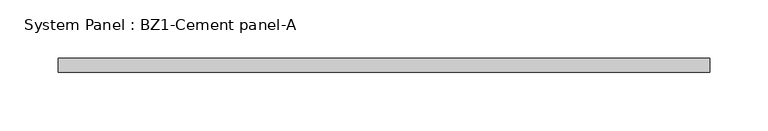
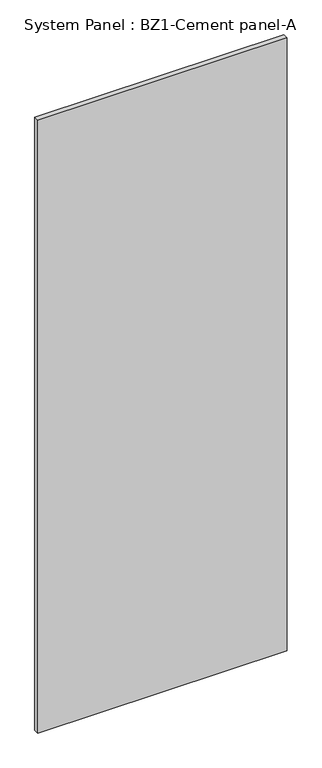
"""IFC4 building model written with IfcOpenShell, lengths in millimetres: plate geometry, System Panel : BZ1-Cement panel-A."""

from ifc_helpers import new_model, si_unit, origin, origin_with_axes, place, context, project, spatial, polyline, outline, extrude, source, transform, mapped, element, save


def system_panel_bz1_cement_panel_a_3b9d9a30(model_context):
    return source(origin(), model_context, "Body", "SweptSolid", [
        extrude(outline(polyline([(280.2416097, -2.0), (-280.2416097, -2.0), (-280.2416097, 10.0), (280.2416097, 10.0), (280.2416097, -2.0)])), origin_with_axes(), (0.0, 0.0, 1.0), 1457.28125),
    ])


if __name__ == "__main__":
    model = new_model("IFC4")
    model_context = context("Model", 3, world=origin())
    ifc_project = project(units=[si_unit("LENGTHUNIT", "METRE", prefix="MILLI")], contexts=[model_context])
    site = spatial("IfcSite", under=ifc_project)
    building = spatial("IfcBuilding", under=site)
    placement = place(None, origin())
    system_panel_bz1_cement_panel_a_shape = system_panel_bz1_cement_panel_a_3b9d9a30(model_context)
    element("IfcPlate", 1, ObjectType="System Panel : BZ1-Cement panel-A", at=placement, inside=building, context=model_context, shape_type="MappedRepresentation", body=[
        mapped(system_panel_bz1_cement_panel_a_shape, transform((0.0, 0.0, 0.0), x_axis=(1.0, 0.0, 0.0), y_axis=(0.0, 1.0, 0.0), z_axis=(0.0, 0.0, 1.0))),
    ])
    save(model, "model.ifc")
